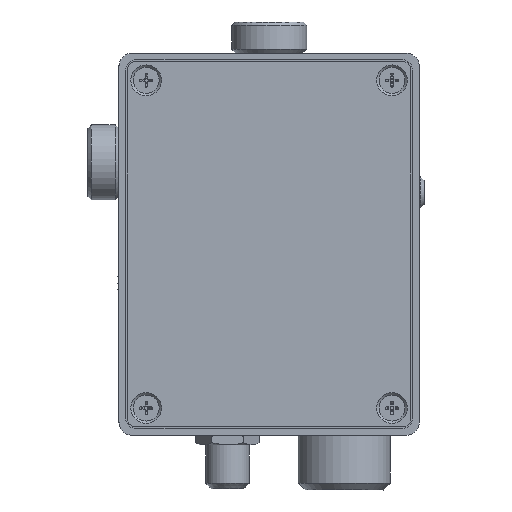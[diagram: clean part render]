
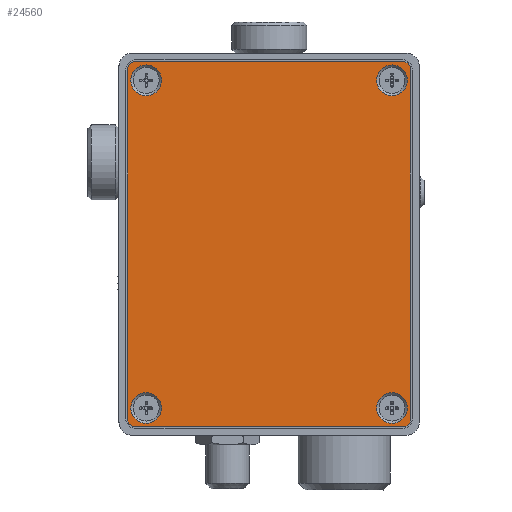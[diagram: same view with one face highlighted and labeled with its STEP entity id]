
A CAD part, front view. The second image highlights one B-rep face of the part: STEP entity #24560.
In plain terms, the highlighted planar face has unit normal (0, -1, 0).
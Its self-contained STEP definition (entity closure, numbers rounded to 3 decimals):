
#1889=FACE_BOUND('',#8941,.T.);
#1890=FACE_BOUND('',#8942,.T.);
#1891=FACE_BOUND('',#8943,.T.);
#1892=FACE_BOUND('',#8944,.T.);
#2202=LINE('',#33658,#4469);
#2205=LINE('',#33670,#4472);
#2214=LINE('',#33719,#4481);
#2216=LINE('',#33722,#4483);
#4469=VECTOR('',#27702,10.);
#4472=VECTOR('',#27713,10.);
#4481=VECTOR('',#27768,10.);
#4483=VECTOR('',#27772,10.);
#7623=FACE_OUTER_BOUND('',#8940,.T.);
#8940=EDGE_LOOP('',(#17288,#17289,#17290,#17291,#17292,#17293,#17294,#17295));
#8941=EDGE_LOOP('',(#17296,#17297));
#8942=EDGE_LOOP('',(#17298,#17299));
#8943=EDGE_LOOP('',(#17300,#17301));
#8944=EDGE_LOOP('',(#17302,#17303));
#10388=CIRCLE('',#25996,1.);
#10390=CIRCLE('',#26000,1.);
#10392=CIRCLE('',#26004,1.);
#10394=CIRCLE('',#26007,1.);
#10396=CIRCLE('',#26010,2.25);
#10397=CIRCLE('',#26011,2.25);
#10400=CIRCLE('',#26015,2.25);
#10401=CIRCLE('',#26016,2.25);
#10402=CIRCLE('',#26018,2.25);
#10403=CIRCLE('',#26019,2.25);
#10404=CIRCLE('',#26021,2.25);
#10405=CIRCLE('',#26022,2.25);
#10935=VERTEX_POINT('',#33645);
#10936=VERTEX_POINT('',#33646);
#10940=VERTEX_POINT('',#33656);
#10941=VERTEX_POINT('',#33660);
#10942=VERTEX_POINT('',#33661);
#10945=VERTEX_POINT('',#33669);
#10947=VERTEX_POINT('',#33675);
#10949=VERTEX_POINT('',#33681);
#10951=VERTEX_POINT('',#33687);
#10952=VERTEX_POINT('',#33688);
#10955=VERTEX_POINT('',#33697);
#10956=VERTEX_POINT('',#33698);
#10957=VERTEX_POINT('',#33703);
#10958=VERTEX_POINT('',#33704);
#10959=VERTEX_POINT('',#33709);
#10960=VERTEX_POINT('',#33710);
#13412=EDGE_CURVE('',#10935,#10936,#10388,.T.);
#13418=EDGE_CURVE('',#10935,#10940,#2202,.T.);
#13419=EDGE_CURVE('',#10941,#10942,#10390,.T.);
#13423=EDGE_CURVE('',#10945,#10942,#2205,.T.);
#13426=EDGE_CURVE('',#10945,#10947,#10392,.T.);
#13429=EDGE_CURVE('',#10949,#10940,#10394,.T.);
#13432=EDGE_CURVE('',#10951,#10952,#10396,.T.);
#13433=EDGE_CURVE('',#10952,#10951,#10397,.T.);
#13437=EDGE_CURVE('',#10955,#10956,#10400,.T.);
#13438=EDGE_CURVE('',#10956,#10955,#10401,.T.);
#13440=EDGE_CURVE('',#10957,#10958,#10402,.T.);
#13441=EDGE_CURVE('',#10958,#10957,#10403,.T.);
#13443=EDGE_CURVE('',#10959,#10960,#10404,.T.);
#13444=EDGE_CURVE('',#10960,#10959,#10405,.T.);
#13448=EDGE_CURVE('',#10941,#10936,#2214,.T.);
#13450=EDGE_CURVE('',#10949,#10947,#2216,.T.);
#17288=ORIENTED_EDGE('',*,*,#13412,.F.);
#17289=ORIENTED_EDGE('',*,*,#13418,.T.);
#17290=ORIENTED_EDGE('',*,*,#13429,.F.);
#17291=ORIENTED_EDGE('',*,*,#13450,.T.);
#17292=ORIENTED_EDGE('',*,*,#13426,.F.);
#17293=ORIENTED_EDGE('',*,*,#13423,.T.);
#17294=ORIENTED_EDGE('',*,*,#13419,.F.);
#17295=ORIENTED_EDGE('',*,*,#13448,.T.);
#17296=ORIENTED_EDGE('',*,*,#13432,.T.);
#17297=ORIENTED_EDGE('',*,*,#13433,.T.);
#17298=ORIENTED_EDGE('',*,*,#13437,.T.);
#17299=ORIENTED_EDGE('',*,*,#13438,.T.);
#17300=ORIENTED_EDGE('',*,*,#13440,.T.);
#17301=ORIENTED_EDGE('',*,*,#13441,.T.);
#17302=ORIENTED_EDGE('',*,*,#13443,.T.);
#17303=ORIENTED_EDGE('',*,*,#13444,.T.);
#23748=PLANE('',#26027);
#24560=ADVANCED_FACE('',(#7623,#1889,#1890,#1891,#1892),#23748,.T.);
#25996=AXIS2_PLACEMENT_3D('',#33647,#27692,#27693);
#26000=AXIS2_PLACEMENT_3D('',#33662,#27705,#27706);
#26004=AXIS2_PLACEMENT_3D('',#33676,#27718,#27719);
#26007=AXIS2_PLACEMENT_3D('',#33682,#27725,#27726);
#26010=AXIS2_PLACEMENT_3D('',#33689,#27732,#27733);
#26011=AXIS2_PLACEMENT_3D('',#33690,#27734,#27735);
#26015=AXIS2_PLACEMENT_3D('',#33699,#27743,#27744);
#26016=AXIS2_PLACEMENT_3D('',#33700,#27745,#27746);
#26018=AXIS2_PLACEMENT_3D('',#33705,#27750,#27751);
#26019=AXIS2_PLACEMENT_3D('',#33706,#27752,#27753);
#26021=AXIS2_PLACEMENT_3D('',#33711,#27757,#27758);
#26022=AXIS2_PLACEMENT_3D('',#33712,#27759,#27760);
#26027=AXIS2_PLACEMENT_3D('',#33724,#27774,#27775);
#27692=DIRECTION('center_axis',(0.,1.,0.));
#27693=DIRECTION('ref_axis',(0.707,0.,-0.707));
#27702=DIRECTION('',(0.,0.,1.));
#27705=DIRECTION('center_axis',(0.,1.,0.));
#27706=DIRECTION('ref_axis',(-0.707,0.,-0.707));
#27713=DIRECTION('',(0.,0.,-1.));
#27718=DIRECTION('center_axis',(0.,1.,0.));
#27719=DIRECTION('ref_axis',(-0.707,0.,0.707));
#27725=DIRECTION('center_axis',(0.,1.,0.));
#27726=DIRECTION('ref_axis',(0.707,0.,0.707));
#27732=DIRECTION('center_axis',(0.,1.,0.));
#27733=DIRECTION('ref_axis',(0.,0.,
1.));
#27734=DIRECTION('center_axis',(0.,1.,0.));
#27735=DIRECTION('ref_axis',(0.,0.,
1.));
#27743=DIRECTION('center_axis',(0.,1.,0.));
#27744=DIRECTION('ref_axis',(0.,0.,
1.));
#27745=DIRECTION('center_axis',(0.,1.,0.));
#27746=DIRECTION('ref_axis',(0.,0.,
1.));
#27750=DIRECTION('center_axis',(0.,1.,0.));
#27751=DIRECTION('ref_axis',(0.,0.,
1.));
#27752=DIRECTION('center_axis',(0.,1.,0.));
#27753=DIRECTION('ref_axis',(0.,0.,
1.));
#27757=DIRECTION('center_axis',(0.,1.,0.));
#27758=DIRECTION('ref_axis',(0.,0.,
1.));
#27759=DIRECTION('center_axis',(0.,1.,0.));
#27760=DIRECTION('ref_axis',(0.,0.,
1.));
#27768=DIRECTION('',(1.,0.,0.));
#27772=DIRECTION('',(-1.,0.,0.));
#27774=DIRECTION('center_axis',(0.,-1.,0.));
#27775=DIRECTION('ref_axis',(0.,0.,
1.));
#33645=CARTESIAN_POINT('',(42.3,-0.3,2.4));
#33646=CARTESIAN_POINT('',(41.3,-0.3,1.4));
#33647=CARTESIAN_POINT('Origin',(41.3,-0.3,2.4));
#33656=CARTESIAN_POINT('',(42.3,-0.3,53.8));
#33658=CARTESIAN_POINT('',(42.3,-0.3,54.8));
#33660=CARTESIAN_POINT('',(1.9,-0.3,1.4));
#33661=CARTESIAN_POINT('',(0.9,-0.3,2.4));
#33662=CARTESIAN_POINT('Origin',(1.9,-0.3,2.4));
#33669=CARTESIAN_POINT('',(0.9,-0.3,53.8));
#33670=CARTESIAN_POINT('',(0.9,-0.3,1.4));
#33675=CARTESIAN_POINT('',(1.9,-0.3,54.8));
#33676=CARTESIAN_POINT('Origin',(1.9,-0.3,53.8));
#33681=CARTESIAN_POINT('',(41.3,-0.3,54.8));
#33682=CARTESIAN_POINT('Origin',(41.3,-0.3,53.8));
#33687=CARTESIAN_POINT('',(3.6,-0.3,6.35));
#33688=CARTESIAN_POINT('',(3.6,-0.3,1.85));
#33689=CARTESIAN_POINT('Origin',(3.6,-0.3,4.1));
#33690=CARTESIAN_POINT('Origin',(3.6,-0.3,4.1));
#33697=CARTESIAN_POINT('',(39.6,-0.3,54.35));
#33698=CARTESIAN_POINT('',(39.6,-0.3,49.85));
#33699=CARTESIAN_POINT('Origin',(39.6,-0.3,52.1));
#33700=CARTESIAN_POINT('Origin',(39.6,-0.3,52.1));
#33703=CARTESIAN_POINT('',(39.6,-0.3,6.35));
#33704=CARTESIAN_POINT('',(39.6,-0.3,1.85));
#33705=CARTESIAN_POINT('Origin',(39.6,-0.3,4.1));
#33706=CARTESIAN_POINT('Origin',(39.6,-0.3,4.1));
#33709=CARTESIAN_POINT('',(3.6,-0.3,54.35));
#33710=CARTESIAN_POINT('',(3.6,-0.3,49.85));
#33711=CARTESIAN_POINT('Origin',(3.6,-0.3,52.1));
#33712=CARTESIAN_POINT('Origin',(3.6,-0.3,52.1));
#33719=CARTESIAN_POINT('',(42.3,-0.3,1.4));
#33722=CARTESIAN_POINT('',(0.9,-0.3,54.8));
#33724=CARTESIAN_POINT('Origin',(21.6,-0.3,28.1));
